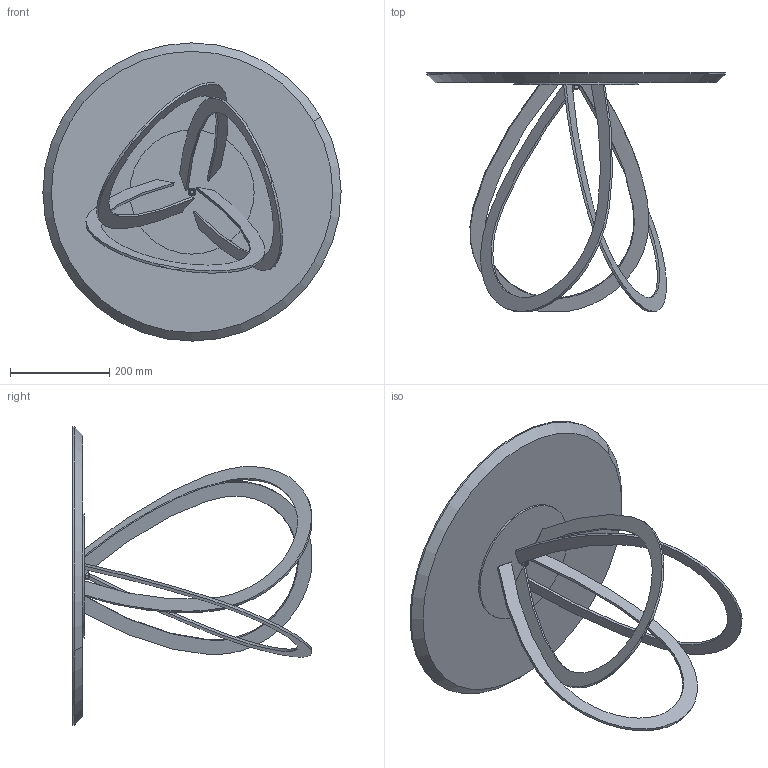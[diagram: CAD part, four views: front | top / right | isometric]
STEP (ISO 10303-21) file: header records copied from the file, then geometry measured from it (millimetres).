
FILE_DESCRIPTION (( 'STEP AP203' ), '1' );
FILE_NAME ('FL01W_Febe Low_d60xh48_Wood.STEP', '2024-08-06T08:56:44', ( '' ), ( '' ), 'SwSTEP 2.0', 'SolidWorks 2022', '' );
FILE_SCHEMA (( 'CONFIG_CONTROL_DESIGN' ));
Length unit declared in the file: millimetre
Products named in the file (8): W1XCMXX-00-Piani Rotondi legno_d.600mm SP. 20; rondella M8_8X16; FL01W_Febe Low_d60xh48_Wood; FET00000048_01-00-FEBE DISCO METALLO SUPERIORE H.48cm_pos. gambe 500; GRANO M8_barra; FET00000048_02-00-FEBE GAMBA PER H.48cm_gamba per febe 80; nut_M8_M8; FET000000XX-00-FEBE STRUTTURA BASE H.XXcm_FEBE 80
Assembly tree (9 placements, depth 3):
  FL01W_Febe Low_d60xh48_Wood
    W1XCMXX-00-Piani Rotondi legno_d.600mm SP. 20
    FET000000XX-00-FEBE STRUTTURA BASE H.XXcm_FEBE 80
      FET00000048_02-00-FEBE GAMBA PER H.48cm_gamba per febe 80  x3
      FET00000048_01-00-FEBE DISCO METALLO SUPERIORE H.48cm_pos. gambe 500
    GRANO M8_barra
    nut_M8_M8
    rondella M8_8X16
Bounding box: 600 x 480.62 x 600 mm (x, y, z)
Volume: 6121402.5 mm3; surface area: 937403.3 mm2
Topology: 8 solids, 8 shells, 125 faces, 280 edges, 173 vertices
Faces by surface type: plane 49, cylinder 34, cone 22, bspline 12, torus 8
Entity records: 4208 total; most frequent: CARTESIAN_POINT 941, DIRECTION 532, ORIENTED_EDGE 464, EDGE_CURVE 232, AXIS2_PLACEMENT_3D 214, VERTEX_POINT 147, EDGE_LOOP 123, FACE_OUTER_BOUND 107
